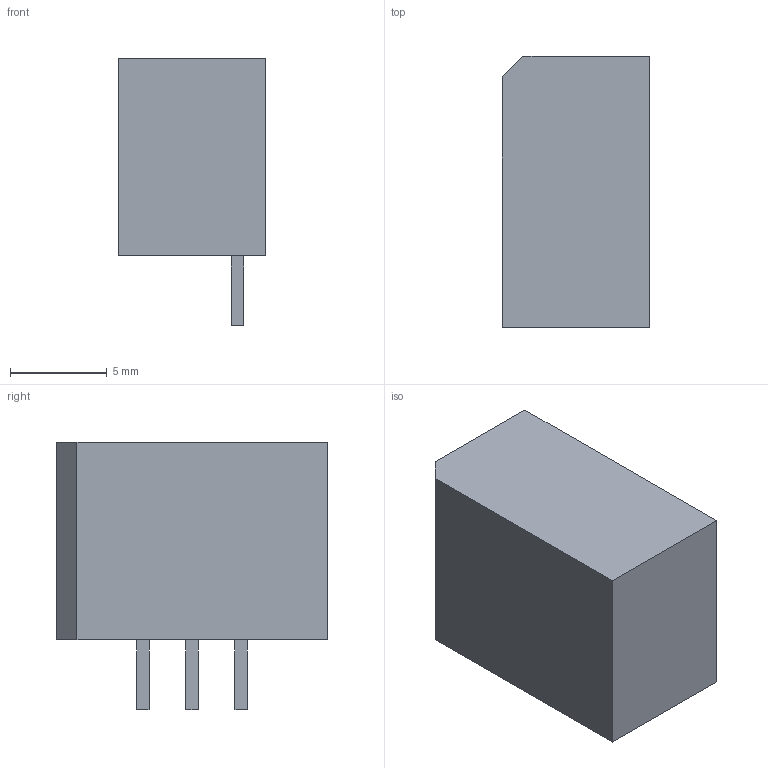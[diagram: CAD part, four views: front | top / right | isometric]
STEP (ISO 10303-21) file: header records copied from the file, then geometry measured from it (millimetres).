
FILE_DESCRIPTION(('FreeCAD Model'),'2;1');
FILE_NAME('Open CASCADE Shape Model','2026-11-10T17:55:43',('FreeCAD'),( 'FreeCAD'),'Open CASCADE STEP processor 7.8','FreeCAD','Unknown');
FILE_SCHEMA(('AUTOMOTIVE_DESIGN { 1 0 10303 214 1 1 1 1 }'));
Length unit declared in the file: millimetre
Products named in the file (1): Open CASCADE STEP translator 7.8 1
Bounding box: 7.6 x 14 x 13.8 mm (x, y, z)
Volume: 1084 mm3; surface area: 673.6 mm2
Topology: 1 solids, 1 shells, 22 faces, 51 edges, 34 vertices
Faces by surface type: plane 22
Entity records: 625 total; most frequent: CARTESIAN_POINT 108, ORIENTED_EDGE 102, DIRECTION 97, EDGE_CURVE 51, LINE 51, VECTOR 51, VERTEX_POINT 34, FACE_BOUND 25
